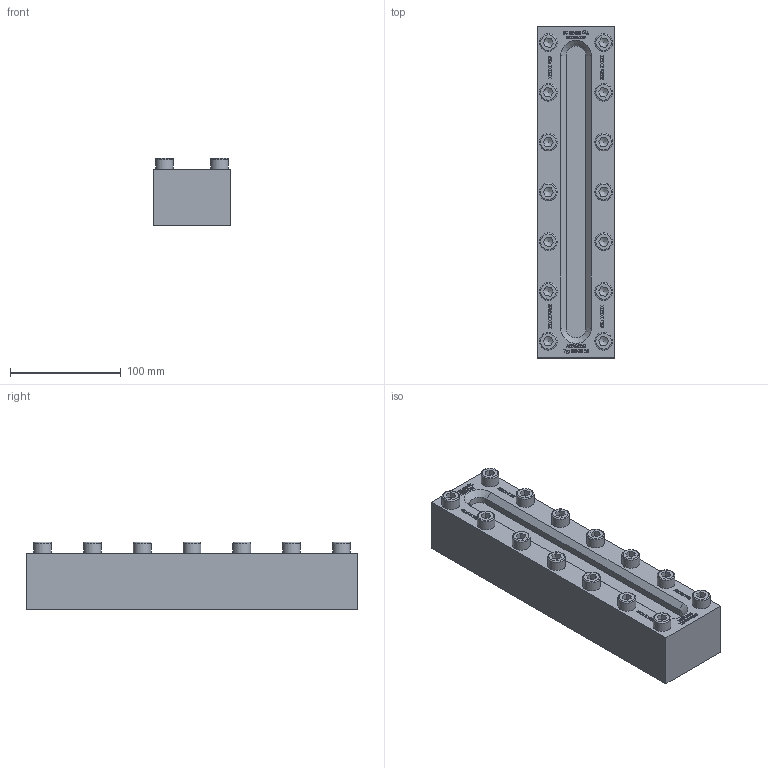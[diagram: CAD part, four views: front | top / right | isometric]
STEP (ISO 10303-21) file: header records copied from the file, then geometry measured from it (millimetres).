
FILE_DESCRIPTION(/* description */ (''),/* implementation_level */ '2;1');
FILE_NAME(/* name */ 'W:\Konstruktion_ACI\330\_Zeichnungen\STEP\ACI-330-300-16.stp',/* time_stamp */ '2022-03-01T17:11:22+01:00',/* author */ ('koslowksi'),/* organization */ (''),/* preprocessor_version */ 'ST-DEVELOPER v16.1',/* originating_system */ 'Autodesk Inventor 2016',/* authorisation */ '');
FILE_SCHEMA (('AUTOMOTIVE_DESIGN { 1 0 10303 214 3 1 1 }'));
Length unit declared in the file: centimetre
Products named in the file (1): ACI-330-300-16.stp
Bounding box: 70 x 300 x 60.9 mm (x, y, z)
Volume: 965285 mm3; surface area: 101321.8 mm2
Topology: 1 solids, 1 shells, 1266 faces, 3426 edges, 2278 vertices
Faces by surface type: plane 900, bspline 318, cylinder 18, cone 16, torus 14
Full cylindrical faces by diameter (mm): 16 x14
Entity records: 41622 total; most frequent: CARTESIAN_POINT 11175, ORIENTED_EDGE 6712, DIRECTION 4586, EDGE_CURVE 3356, LINE 2584, VECTOR 2584, VERTEX_POINT 2250, EDGE_LOOP 1424
